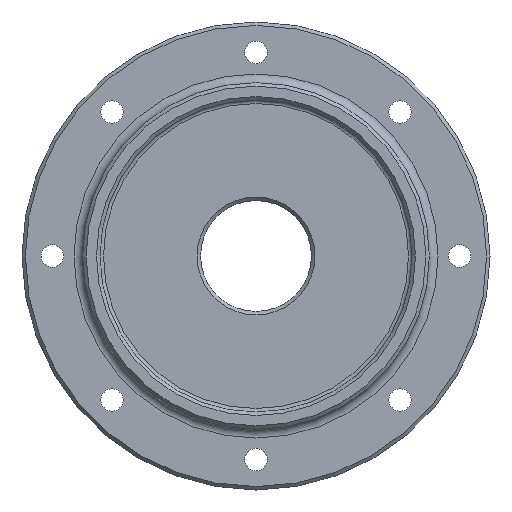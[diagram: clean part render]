
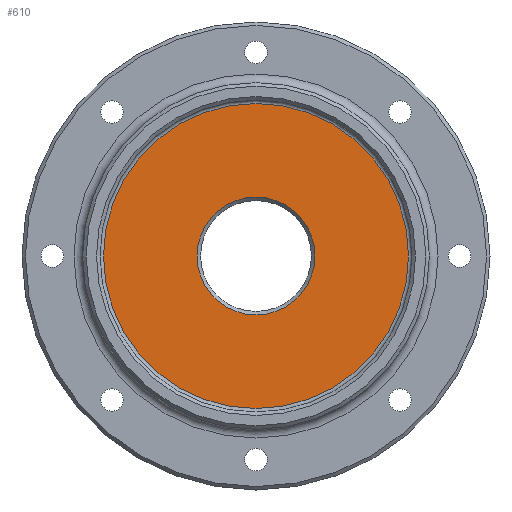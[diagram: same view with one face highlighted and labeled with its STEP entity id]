
A CAD part, left-side view. The second image highlights one B-rep face of the part: STEP entity #610.
In plain terms, the highlighted planar face has unit normal (-1, 0, 0).
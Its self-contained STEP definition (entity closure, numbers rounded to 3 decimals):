
#37=FACE_BOUND('',#119,.T.);
#65=PLANE('',#673);
#78=FACE_OUTER_BOUND('',#118,.T.);
#118=EDGE_LOOP('',(#440));
#119=EDGE_LOOP('',(#441));
#237=CIRCLE('',#670,34.);
#240=CIRCLE('',#674,88.);
#295=VERTEX_POINT('',#993);
#298=VERTEX_POINT('',#1001);
#351=EDGE_CURVE('',#295,#295,#237,.T.);
#355=EDGE_CURVE('',#298,#298,#240,.T.);
#440=ORIENTED_EDGE('',*,*,#355,.F.);
#441=ORIENTED_EDGE('',*,*,#351,.F.);
#610=ADVANCED_FACE('',(#78,#37),#65,.T.);
#670=AXIS2_PLACEMENT_3D('',#994,#771,#772);
#673=AXIS2_PLACEMENT_3D('',#1000,#778,#779);
#674=AXIS2_PLACEMENT_3D('',#1002,#780,#781);
#771=DIRECTION('center_axis',(-1.,0.,0.));
#772=DIRECTION('ref_axis',(0.,-1.,0.));
#778=DIRECTION('center_axis',(-1.,0.,0.));
#779=DIRECTION('ref_axis',(0.,0.,1.));
#780=DIRECTION('center_axis',(1.,0.,0.));
#781=DIRECTION('ref_axis',(0.,-1.,0.));
#993=CARTESIAN_POINT('',(36.,34.,0.));
#994=CARTESIAN_POINT('Origin',(36.,0.,0.));
#1000=CARTESIAN_POINT('Origin',(36.,90.,0.));
#1001=CARTESIAN_POINT('',(36.,0.,88.));
#1002=CARTESIAN_POINT('Origin',(36.,0.,0.));
